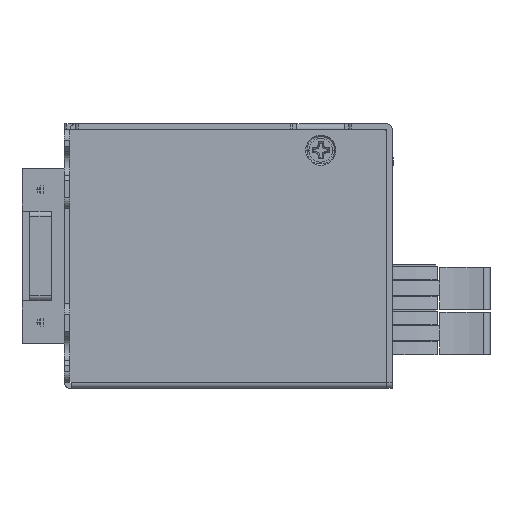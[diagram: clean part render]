
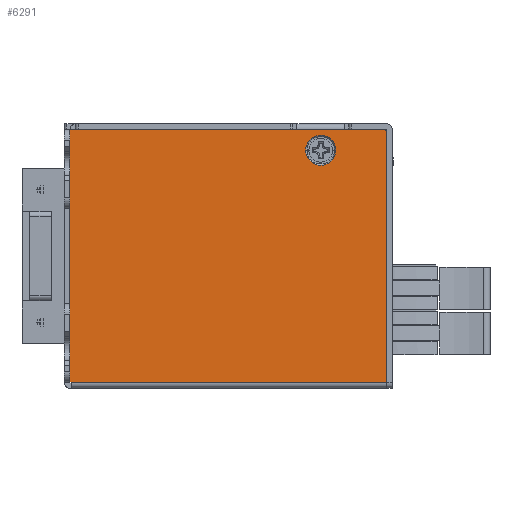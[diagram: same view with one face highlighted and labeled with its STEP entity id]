
A CAD part, left-side view. The second image highlights one B-rep face of the part: STEP entity #6291.
In plain terms, the highlighted planar face has unit normal (-1, 0, 0).
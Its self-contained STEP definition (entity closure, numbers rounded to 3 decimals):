
#818=DIRECTION('',(0.,0.,-1.));
#819=VECTOR('',#818,47.4);
#820=CARTESIAN_POINT('',(-69.,0.05,48.4));
#821=LINE('',#820,#819);
#857=DIRECTION('',(0.,0.,1.));
#858=VECTOR('',#857,0.1);
#859=CARTESIAN_POINT('',(-69.,59.65,1.));
#860=LINE('',#859,#858);
#866=CARTESIAN_POINT('',(-69.,0.55,48.4));
#867=DIRECTION('',(-1.,0.,0.));
#868=DIRECTION('',(0.,-1.,0.));
#869=AXIS2_PLACEMENT_3D('',#866,#867,#868);
#871=CARTESIAN_POINT('',(-69.,12.5,45.));
#872=DIRECTION('',(1.,0.,0.));
#873=DIRECTION('',(0.,-1.,0.));
#874=AXIS2_PLACEMENT_3D('',#871,#872,#873);
#876=CARTESIAN_POINT('',(-69.,12.5,45.));
#877=DIRECTION('',(1.,0.,0.));
#878=DIRECTION('',(0.,1.,0.));
#879=AXIS2_PLACEMENT_3D('',#876,#877,#878);
#881=DIRECTION('',(0.,-1.,0.));
#882=VECTOR('',#881,0.3);
#883=CARTESIAN_POINT('',(-69.,59.95,1.1));
#884=LINE('',#883,#882);
#905=DIRECTION('',(0.,0.,1.));
#906=VECTOR('',#905,47.8);
#907=CARTESIAN_POINT('',(-69.,59.95,1.1));
#908=LINE('',#907,#906);
#909=DIRECTION('',(0.,-1.,0.));
#910=VECTOR('',#909,59.4);
#911=CARTESIAN_POINT('',(-69.,59.95,48.9));
#912=LINE('',#911,#910);
#917=DIRECTION('',(0.,1.,0.));
#918=VECTOR('',#917,59.6);
#919=CARTESIAN_POINT('',(-69.,0.05,1.));
#920=LINE('',#919,#918);
#4073=CARTESIAN_POINT('',(-69.,15.35,45.));
#4074=CARTESIAN_POINT('',(-69.,9.65,45.));
#4075=VERTEX_POINT('',#4073);
#4076=VERTEX_POINT('',#4074);
#4077=CARTESIAN_POINT('',(-69.,59.65,1.));
#4078=CARTESIAN_POINT('',(-69.,59.65,1.1));
#4079=VERTEX_POINT('',#4077);
#4080=VERTEX_POINT('',#4078);
#4081=CARTESIAN_POINT('',(-69.,59.95,1.1));
#4082=VERTEX_POINT('',#4081);
#4083=CARTESIAN_POINT('',(-69.,59.95,48.9));
#4084=VERTEX_POINT('',#4083);
#4085=CARTESIAN_POINT('',(-69.,0.55,48.9));
#4086=VERTEX_POINT('',#4085);
#4087=CARTESIAN_POINT('',(-69.,0.05,48.4));
#4088=VERTEX_POINT('',#4087);
#4089=CARTESIAN_POINT('',(-69.,0.05,1.));
#4090=VERTEX_POINT('',#4089);
#6267=CARTESIAN_POINT('',(-69.,30.,24.95));
#6268=DIRECTION('',(1.,0.,0.));
#6269=DIRECTION('',(0.,-1.,0.));
#6270=AXIS2_PLACEMENT_3D('',#6267,#6268,#6269);
#6271=PLANE('',#6270);
#6272=ORIENTED_EDGE('',*,*,#6249,.T.);
#6274=ORIENTED_EDGE('',*,*,#6273,.F.);
#6276=ORIENTED_EDGE('',*,*,#6275,.T.);
#6278=ORIENTED_EDGE('',*,*,#6277,.T.);
#6279=ORIENTED_EDGE('',*,*,#6198,.F.);
#6280=ORIENTED_EDGE('',*,*,#6178,.T.);
#6282=ORIENTED_EDGE('',*,*,#6281,.T.);
#6283=EDGE_LOOP('',(#6272,#6274,#6276,#6278,#6279,#6280,#6282));
#6284=FACE_OUTER_BOUND('',#6283,.F.);
#6286=ORIENTED_EDGE('',*,*,#6285,.F.);
#6288=ORIENTED_EDGE('',*,*,#6287,.F.);
#6289=EDGE_LOOP('',(#6286,#6288));
#6290=FACE_BOUND('',#6289,.F.);
#6291=ADVANCED_FACE('',(#6284,#6290),#6271,.F.);
#870=CIRCLE('',#869,0.5);
#875=CIRCLE('',#874,2.85);
#880=CIRCLE('',#879,2.85);
#6178=EDGE_CURVE('',#4088,#4090,#821,.T.);
#6198=EDGE_CURVE('',#4088,#4086,#870,.T.);
#6249=EDGE_CURVE('',#4079,#4080,#860,.T.);
#6273=EDGE_CURVE('',#4082,#4080,#884,.T.);
#6275=EDGE_CURVE('',#4082,#4084,#908,.T.);
#6277=EDGE_CURVE('',#4084,#4086,#912,.T.);
#6281=EDGE_CURVE('',#4090,#4079,#920,.T.);
#6285=EDGE_CURVE('',#4076,#4075,#875,.T.);
#6287=EDGE_CURVE('',#4075,#4076,#880,.T.);
